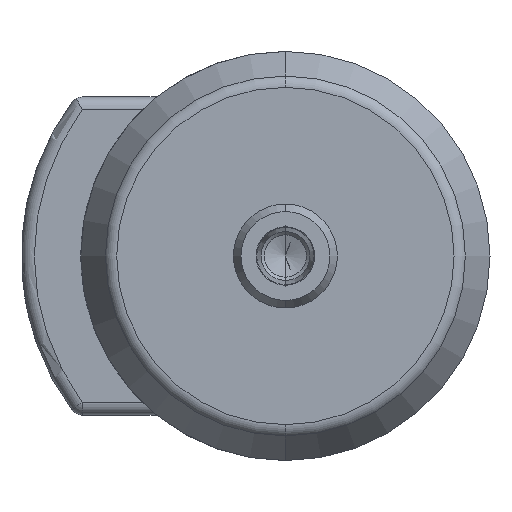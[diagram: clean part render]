
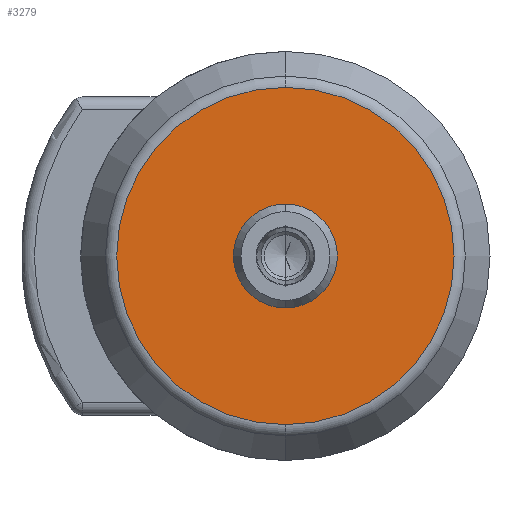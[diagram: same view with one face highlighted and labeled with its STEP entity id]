
A CAD part, front view. The second image highlights one B-rep face of the part: STEP entity #3279.
In plain terms, the highlighted planar face has unit normal (0, -1, 0).
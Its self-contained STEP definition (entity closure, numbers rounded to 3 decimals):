
#52 = ORIENTED_EDGE ( 'NONE', *, *, #3939, .T. ) ;
#96 = CARTESIAN_POINT ( 'NONE',  ( 0., 0., 7.75 ) ) ;
#145 = DIRECTION ( 'NONE',  ( 0., 0., 1. ) ) ;
#239 = VERTEX_POINT ( 'NONE', #1915 ) ;
#387 = VERTEX_POINT ( 'NONE', #96 ) ;
#413 = ORIENTED_EDGE ( 'NONE', *, *, #625, .T. ) ;
#525 = EDGE_CURVE ( 'NONE', #239, #3434, #2494, .T. ) ;
#625 = EDGE_CURVE ( 'NONE', #387, #3202, #4642, .T. ) ;
#953 = DIRECTION ( 'NONE',  ( 0., -1., 0. ) ) ;
#1289 = CARTESIAN_POINT ( 'NONE',  ( 0., 0., 0. ) ) ;
#1339 = AXIS2_PLACEMENT_3D ( 'NONE', #4518, #953, #2204 ) ;
#1394 = CIRCLE ( 'NONE', #3606, 7.75 ) ;
#1402 = FACE_BOUND ( 'NONE', #3139, .T. ) ;
#1915 = CARTESIAN_POINT ( 'NONE',  ( 0., 0., 25.969 ) ) ;
#1982 = AXIS2_PLACEMENT_3D ( 'NONE', #4504, #4123, #2192 ) ;
#2058 = DIRECTION ( 'NONE',  ( 0., 0., 1. ) ) ;
#2150 = CARTESIAN_POINT ( 'NONE',  ( 0., 0., 0. ) ) ;
#2163 = AXIS2_PLACEMENT_3D ( 'NONE', #4071, #2904, #3308 ) ;
#2169 = PLANE ( 'NONE',  #1339 ) ;
#2192 = DIRECTION ( 'NONE',  ( 0., 0., 1. ) ) ;
#2204 = DIRECTION ( 'NONE',  ( 0., 0., -1. ) ) ;
#2349 = EDGE_LOOP ( 'NONE', ( #4905, #4160 ) ) ;
#2494 = CIRCLE ( 'NONE', #4837, 25.969 ) ;
#2904 = DIRECTION ( 'NONE',  ( 0., 1., 0. ) ) ;
#3139 = EDGE_LOOP ( 'NONE', ( #413, #52 ) ) ;
#3202 = VERTEX_POINT ( 'NONE', #3713 ) ;
#3274 = CARTESIAN_POINT ( 'NONE',  ( 0., 0., -25.969 ) ) ;
#3279 = ADVANCED_FACE ( 'NONE', ( #1402, #4574 ), #2169, .T. ) ;
#3308 = DIRECTION ( 'NONE',  ( 0., 0., 1. ) ) ;
#3434 = VERTEX_POINT ( 'NONE', #3274 ) ;
#3548 = EDGE_CURVE ( 'NONE', #3434, #239, #3919, .T. ) ;
#3606 = AXIS2_PLACEMENT_3D ( 'NONE', #2150, #4814, #145 ) ;
#3713 = CARTESIAN_POINT ( 'NONE',  ( 0., 0., -7.75 ) ) ;
#3919 = CIRCLE ( 'NONE', #1982, 25.969 ) ;
#3939 = EDGE_CURVE ( 'NONE', #3202, #387, #1394, .T. ) ;
#4041 = DIRECTION ( 'NONE',  ( 0., 1., 0. ) ) ;
#4071 = CARTESIAN_POINT ( 'NONE',  ( 0., 0., 0. ) ) ;
#4123 = DIRECTION ( 'NONE',  ( 0., 1., 0. ) ) ;
#4160 = ORIENTED_EDGE ( 'NONE', *, *, #3548, .F. ) ;
#4504 = CARTESIAN_POINT ( 'NONE',  ( 0., 0., 0. ) ) ;
#4518 = CARTESIAN_POINT ( 'NONE',  ( 0., 0., 0. ) ) ;
#4574 = FACE_OUTER_BOUND ( 'NONE', #2349, .T. ) ;
#4642 = CIRCLE ( 'NONE', #2163, 7.75 ) ;
#4814 = DIRECTION ( 'NONE',  ( 0., 1., 0. ) ) ;
#4837 = AXIS2_PLACEMENT_3D ( 'NONE', #1289, #4041, #2058 ) ;
#4905 = ORIENTED_EDGE ( 'NONE', *, *, #525, .F. ) ;
